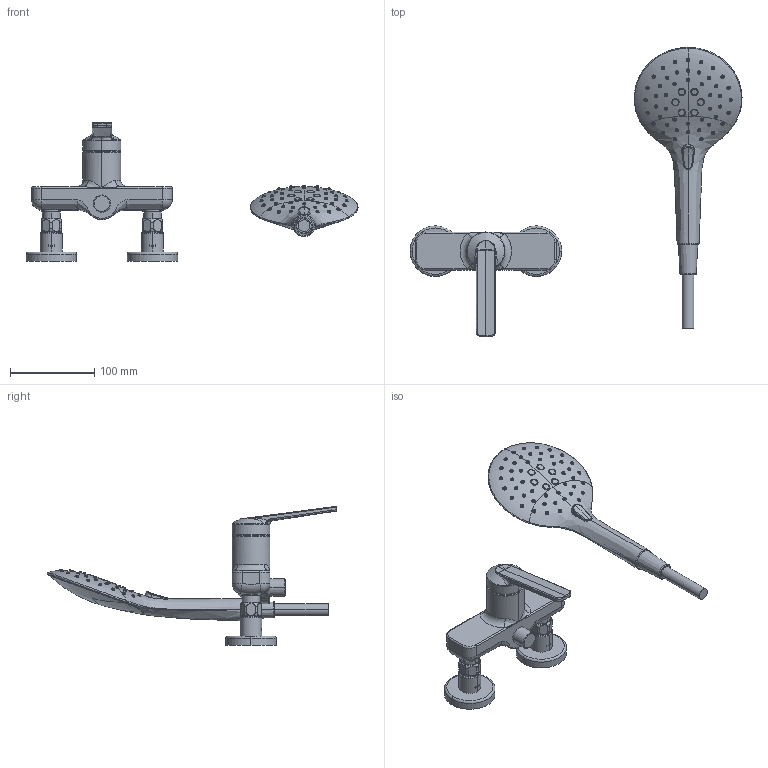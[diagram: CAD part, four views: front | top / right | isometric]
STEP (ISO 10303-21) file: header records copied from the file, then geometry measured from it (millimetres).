
FILE_DESCRIPTION((''),'2;1');
FILE_NAME('21662050_350','2019-03-07T',('TS966'),(''),'CREO PARAMETRIC BY PTC INC, 2016260','CREO PARAMETRIC BY PTC INC, 2016260','');
FILE_SCHEMA(('CONFIG_CONTROL_DESIGN'));
Products named in the file (1): 21662050_350
Bounding box: 393.97 x 343.26 x 164.54 mm (x, y, z)
Volume: 740531 mm3; surface area: 104897 mm2
Topology: 2 solids, 2 shells, 834 faces, 1785 edges, 1060 vertices
Faces by surface type: cone 290, bspline 160, torus 150, revolution 80, cylinder 74, plane 63, sphere 13, extrusion 4
Entity records: 50191 total; most frequent: CARTESIAN_POINT 33644, ORIENTED_EDGE 3554, DIRECTION 3019, EDGE_CURVE 1777, AXIS2_PLACEMENT_3D 1260, VERTEX_POINT 1060, EDGE_LOOP 947, FACE_OUTER_BOUND 834
